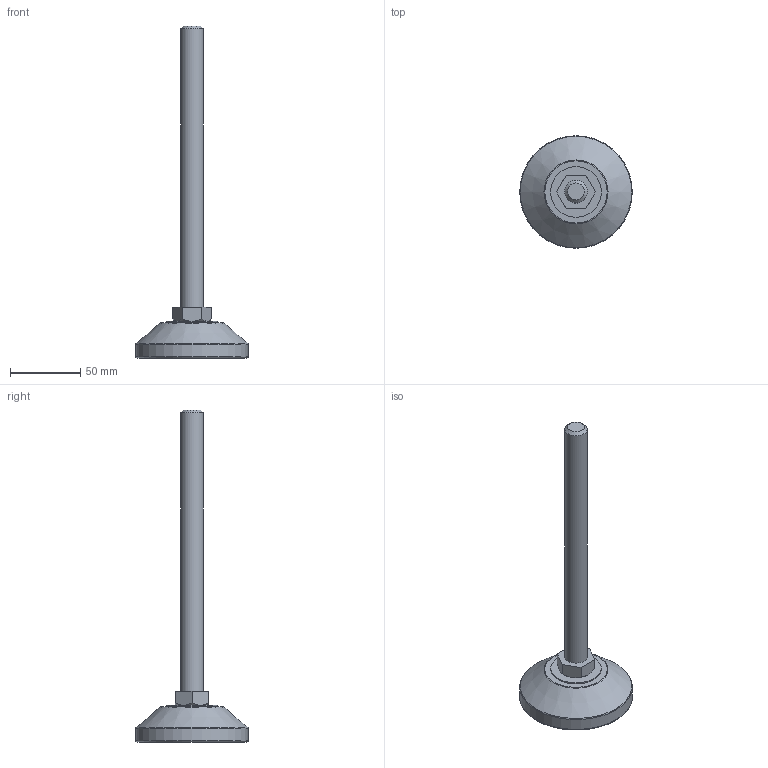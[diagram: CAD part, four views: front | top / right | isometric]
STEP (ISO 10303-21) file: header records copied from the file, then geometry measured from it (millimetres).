
FILE_DESCRIPTION(/* description */ (''),/* implementation_level */ '2;1');
FILE_NAME(/* name */ 'D:\조절자\F\F-M16-200L.stp',/* time_stamp */ '2016-03-14T14:33:09+09:00',/* author */ ('GS-DT-1-001'),/* organization */ (''),/* preprocessor_version */ 'ST-DEVELOPER v15.6',/* originating_system */ 'Autodesk Inventor LT ',/* authorisation */ '');
FILE_SCHEMA (('AUTOMOTIVE_DESIGN { 1 0 10303 214 3 1 1 }'));
Length unit declared in the file: millimetre
Products named in the file (1): F-M16-200L
Bounding box: 80 x 80 x 236 mm (x, y, z)
Volume: 113065.7 mm3; surface area: 28494.3 mm2
Topology: 1 solids, 2 shells, 46 faces, 81 edges, 50 vertices
Faces by surface type: plane 21, cylinder 13, cone 8, torus 4
Full cylindrical faces by diameter (mm): 6.912 x1, 8 x1, 8.2 x1, 8.3 x1, 16 x2, 36 x1, 50 x1, 57 x1, 61 x1, 71 x1, 75 x1, 80 x1
Entity records: 988 total; most frequent: DIRECTION 180, CARTESIAN_POINT 163, ORIENTED_EDGE 110, AXIS2_PLACEMENT_3D 84, EDGE_LOOP 82, EDGE_CURVE 55, VERTEX_POINT 49, FACE_OUTER_BOUND 46
